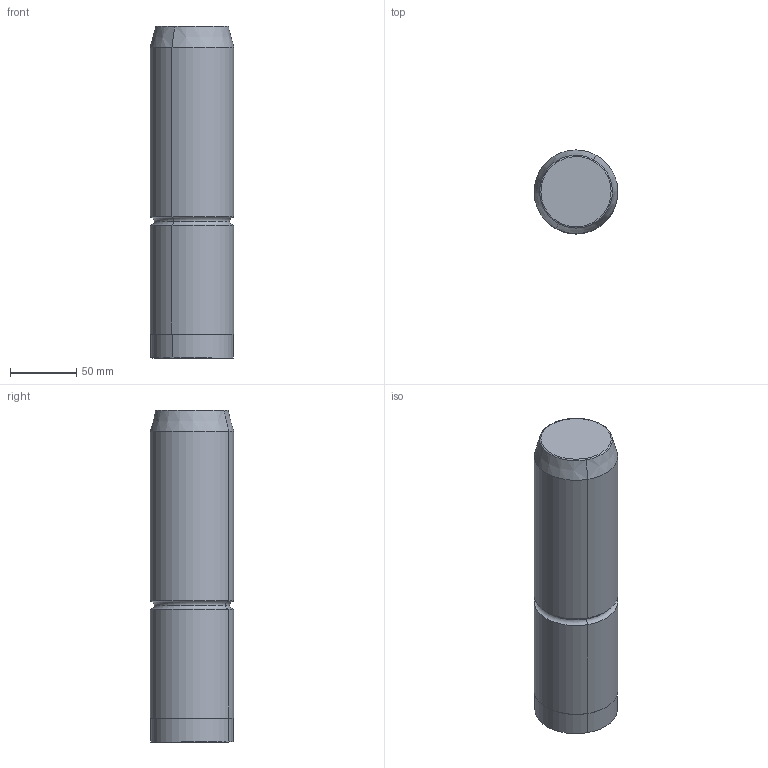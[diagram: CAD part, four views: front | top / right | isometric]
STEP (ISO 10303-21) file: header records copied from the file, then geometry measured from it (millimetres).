
FILE_DESCRIPTION(('CATIA V5 STEP Exchange'),'2;1');
FILE_NAME('C:\Users\Utente\Desktop\IO LAVORO\3D X SITO CF\X SITO\M104\M104-63x250.stp','2020-12-26T21:22:10+00:00',('none'),('none'),'CATIA Version 5 Release 20 GA (IN-10)','CATIA V5 STEP AP203','none');
FILE_SCHEMA(('CONFIG_CONTROL_DESIGN'));
Length unit declared in the file: millimetre
Products named in the file (1): M104-63x250
Bounding box: 62.98 x 62.98 x 250 mm (x, y, z)
Volume: 768181.9 mm3; surface area: 55296.7 mm2
Topology: 1 solids, 1 shells, 17 faces, 32 edges, 18 vertices
Faces by surface type: cylinder 6, torus 6, plane 3, cone 2
Entity records: 438 total; most frequent: CARTESIAN_POINT 66, ORIENTED_EDGE 64, DIRECTION 62, AXIS2_PLACEMENT_3D 40, EDGE_CURVE 32, CIRCLE 24, EDGE_LOOP 18, VERTEX_POINT 18
